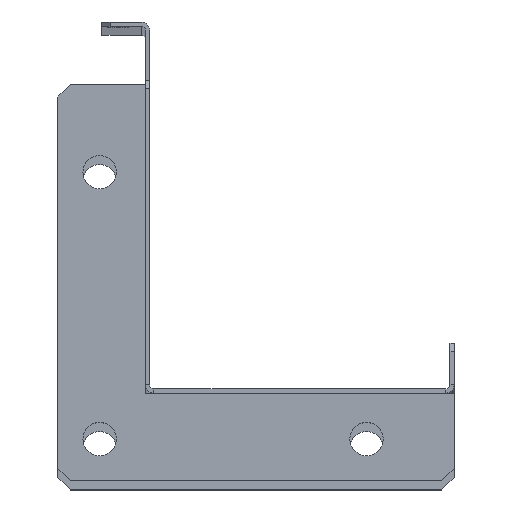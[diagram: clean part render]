
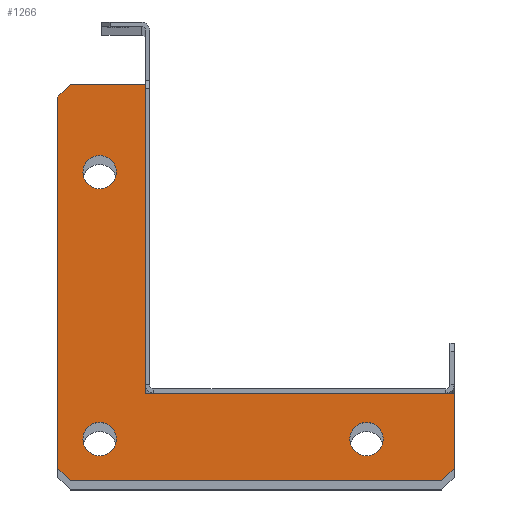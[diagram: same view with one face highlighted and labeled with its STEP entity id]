
A CAD part, top view. The second image highlights one B-rep face of the part: STEP entity #1266.
In plain terms, the highlighted planar face has unit normal (0, 0, 1).
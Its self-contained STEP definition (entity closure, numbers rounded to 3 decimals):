
#38 = ORIENTED_EDGE ( 'NONE', *, *, #2135, .T. ) ;
#55 = DIRECTION ( 'NONE',  ( 0., 0., 1. ) ) ;
#99 = VERTEX_POINT ( 'NONE', #1218 ) ;
#101 = DIRECTION ( 'NONE',  ( 1., 0., 0. ) ) ;
#103 = AXIS2_PLACEMENT_3D ( 'NONE', #710, #1418, #529 ) ;
#117 = VERTEX_POINT ( 'NONE', #647 ) ;
#120 = DIRECTION ( 'NONE',  ( 0., 0., 1. ) ) ;
#124 = CARTESIAN_POINT ( 'NONE',  ( 71., -21., 635. ) ) ;
#129 = EDGE_CURVE ( 'NONE', #629, #203, #1972, .T. ) ;
#164 = ORIENTED_EDGE ( 'NONE', *, *, #567, .F. ) ;
#167 = CARTESIAN_POINT ( 'NONE',  ( -18., -21., 635. ) ) ;
#196 = PLANE ( 'NONE',  #2360 ) ;
#201 = EDGE_CURVE ( 'NONE', #1807, #226, #1035, .T. ) ;
#203 = VERTEX_POINT ( 'NONE', #1421 ) ;
#206 = DIRECTION ( 'NONE',  ( 0., 0., 1. ) ) ;
#217 = ORIENTED_EDGE ( 'NONE', *, *, #924, .T. ) ;
#220 = DIRECTION ( 'NONE',  ( 1., 0., 0. ) ) ;
#226 = VERTEX_POINT ( 'NONE', #928 ) ;
#231 = CARTESIAN_POINT ( 'NONE',  ( 53., -11., 635. ) ) ;
#236 = VECTOR ( 'NONE', #1590, 1000. ) ;
#276 = CARTESIAN_POINT ( 'NONE',  ( -11., -11., 635. ) ) ;
#300 = CARTESIAN_POINT ( 'NONE',  ( 49., -11., 635. ) ) ;
#306 = DIRECTION ( 'NONE',  ( 1., 0., 0. ) ) ;
#339 = CARTESIAN_POINT ( 'NONE',  ( -21., -18., 635. ) ) ;
#340 = AXIS2_PLACEMENT_3D ( 'NONE', #1775, #120, #306 ) ;
#361 = VERTEX_POINT ( 'NONE', #938 ) ;
#379 = VECTOR ( 'NONE', #2202, 1000. ) ;
#383 = EDGE_CURVE ( 'NONE', #1163, #361, #1704, .T. ) ;
#410 = DIRECTION ( 'NONE',  ( 0., 0., 1. ) ) ;
#414 = CARTESIAN_POINT ( 'NONE',  ( -11., -11., 635. ) ) ;
#419 = DIRECTION ( 'NONE',  ( -1., 0., 0. ) ) ;
#421 = EDGE_LOOP ( 'NONE', ( #164, #1759 ) ) ;
#427 = CARTESIAN_POINT ( 'NONE',  ( 71., -21., 635. ) ) ;
#432 = ORIENTED_EDGE ( 'NONE', *, *, #1734, .F. ) ;
#455 = CARTESIAN_POINT ( 'NONE',  ( -21., -18., 635. ) ) ;
#457 = CIRCLE ( 'NONE', #340, 4. ) ;
#505 = ORIENTED_EDGE ( 'NONE', *, *, #383, .T. ) ;
#529 = DIRECTION ( 'NONE',  ( 1., 0., 0. ) ) ;
#546 = ORIENTED_EDGE ( 'NONE', *, *, #1495, .T. ) ;
#558 = ORIENTED_EDGE ( 'NONE', *, *, #888, .T. ) ;
#562 = AXIS2_PLACEMENT_3D ( 'NONE', #779, #206, #1518 ) ;
#564 = CARTESIAN_POINT ( 'NONE',  ( 74., 0., 635. ) ) ;
#567 = EDGE_CURVE ( 'NONE', #966, #1194, #831, .T. ) ;
#571 = DIRECTION ( 'NONE',  ( 0., 0., 1. ) ) ;
#593 = DIRECTION ( 'NONE',  ( 0., 0., 1. ) ) ;
#599 = CIRCLE ( 'NONE', #562, 4. ) ;
#603 = FACE_OUTER_BOUND ( 'NONE', #2329, .T. ) ;
#629 = VERTEX_POINT ( 'NONE', #427 ) ;
#647 = CARTESIAN_POINT ( 'NONE',  ( 57., -11., 635. ) ) ;
#658 = LINE ( 'NONE', #455, #732 ) ;
#685 = VERTEX_POINT ( 'NONE', #2281 ) ;
#710 = CARTESIAN_POINT ( 'NONE',  ( -11., 53., 635. ) ) ;
#726 = DIRECTION ( 'NONE',  ( 1., 0., 0. ) ) ;
#731 = CARTESIAN_POINT ( 'NONE',  ( -18., 74., 635. ) ) ;
#732 = VECTOR ( 'NONE', #1390, 1000. ) ;
#779 = CARTESIAN_POINT ( 'NONE',  ( -11., 53., 635. ) ) ;
#805 = ORIENTED_EDGE ( 'NONE', *, *, #2217, .F. ) ;
#814 = EDGE_CURVE ( 'NONE', #226, #1163, #2303, .T. ) ;
#829 = CIRCLE ( 'NONE', #103, 4. ) ;
#831 = CIRCLE ( 'NONE', #1762, 4. ) ;
#845 = CIRCLE ( 'NONE', #1699, 4. ) ;
#888 = EDGE_CURVE ( 'NONE', #910, #961, #1573, .T. ) ;
#910 = VERTEX_POINT ( 'NONE', #2212 ) ;
#912 = LINE ( 'NONE', #167, #2014 ) ;
#914 = CARTESIAN_POINT ( 'NONE',  ( -7., -11., 635. ) ) ;
#924 = EDGE_CURVE ( 'NONE', #685, #629, #912, .T. ) ;
#928 = CARTESIAN_POINT ( 'NONE',  ( 0., 0., 635. ) ) ;
#930 = FACE_BOUND ( 'NONE', #421, .T. ) ;
#938 = CARTESIAN_POINT ( 'NONE',  ( -18., 74., 635. ) ) ;
#961 = VERTEX_POINT ( 'NONE', #339 ) ;
#966 = VERTEX_POINT ( 'NONE', #914 ) ;
#1005 = CARTESIAN_POINT ( 'NONE',  ( 74., -18., 635. ) ) ;
#1035 = LINE ( 'NONE', #1581, #2084 ) ;
#1145 = CARTESIAN_POINT ( 'NONE',  ( 0., 74., 635. ) ) ;
#1163 = VERTEX_POINT ( 'NONE', #1986 ) ;
#1166 = EDGE_LOOP ( 'NONE', ( #1726, #432 ) ) ;
#1194 = VERTEX_POINT ( 'NONE', #1659 ) ;
#1209 = ORIENTED_EDGE ( 'NONE', *, *, #1312, .F. ) ;
#1218 = CARTESIAN_POINT ( 'NONE',  ( -7., 53., 635. ) ) ;
#1227 = VECTOR ( 'NONE', #1768, 1000. ) ;
#1240 = ORIENTED_EDGE ( 'NONE', *, *, #201, .T. ) ;
#1266 = ADVANCED_FACE ( 'NONE', ( #1301, #930, #2252, #603 ), #196, .T. ) ;
#1301 = FACE_BOUND ( 'NONE', #1166, .T. ) ;
#1312 = EDGE_CURVE ( 'NONE', #1988, #117, #845, .T. ) ;
#1390 = DIRECTION ( 'NONE',  ( 0.707, -0.707, 0. ) ) ;
#1418 = DIRECTION ( 'NONE',  ( 0., 0., 1. ) ) ;
#1421 = CARTESIAN_POINT ( 'NONE',  ( 74., -18., 635. ) ) ;
#1433 = ORIENTED_EDGE ( 'NONE', *, *, #129, .T. ) ;
#1495 = EDGE_CURVE ( 'NONE', #961, #685, #658, .T. ) ;
#1506 = VECTOR ( 'NONE', #2370, 1000. ) ;
#1518 = DIRECTION ( 'NONE',  ( 1., 0., 0. ) ) ;
#1557 = VECTOR ( 'NONE', #419, 1000. ) ;
#1573 = LINE ( 'NONE', #2312, #1506 ) ;
#1576 = LINE ( 'NONE', #1005, #236 ) ;
#1581 = CARTESIAN_POINT ( 'NONE',  ( 0., 0., 635. ) ) ;
#1590 = DIRECTION ( 'NONE',  ( 0., 1., 0. ) ) ;
#1599 = EDGE_CURVE ( 'NONE', #99, #2285, #829, .T. ) ;
#1637 = EDGE_LOOP ( 'NONE', ( #805, #1209 ) ) ;
#1642 = LINE ( 'NONE', #731, #379 ) ;
#1659 = CARTESIAN_POINT ( 'NONE',  ( -15., -11., 635. ) ) ;
#1664 = AXIS2_PLACEMENT_3D ( 'NONE', #414, #593, #2097 ) ;
#1699 = AXIS2_PLACEMENT_3D ( 'NONE', #231, #410, #220 ) ;
#1700 = CIRCLE ( 'NONE', #1664, 4. ) ;
#1704 = LINE ( 'NONE', #1145, #1557 ) ;
#1726 = ORIENTED_EDGE ( 'NONE', *, *, #1599, .F. ) ;
#1734 = EDGE_CURVE ( 'NONE', #2285, #99, #599, .T. ) ;
#1759 = ORIENTED_EDGE ( 'NONE', *, *, #2074, .F. ) ;
#1762 = AXIS2_PLACEMENT_3D ( 'NONE', #276, #571, #101 ) ;
#1768 = DIRECTION ( 'NONE',  ( 0.707, 0.707, 0. ) ) ;
#1775 = CARTESIAN_POINT ( 'NONE',  ( 53., -11., 635. ) ) ;
#1782 = ORIENTED_EDGE ( 'NONE', *, *, #814, .T. ) ;
#1786 = CARTESIAN_POINT ( 'NONE',  ( 0., 74., 635. ) ) ;
#1797 = DIRECTION ( 'NONE',  ( 0., 1., 0. ) ) ;
#1807 = VERTEX_POINT ( 'NONE', #564 ) ;
#1972 = LINE ( 'NONE', #124, #1227 ) ;
#1986 = CARTESIAN_POINT ( 'NONE',  ( 0., 74., 635. ) ) ;
#1988 = VERTEX_POINT ( 'NONE', #300 ) ;
#1993 = CARTESIAN_POINT ( 'NONE',  ( -15., 53., 635. ) ) ;
#2014 = VECTOR ( 'NONE', #726, 1000. ) ;
#2046 = DIRECTION ( 'NONE',  ( 1., 0., 0. ) ) ;
#2058 = CARTESIAN_POINT ( 'NONE',  ( 0., 0., 635. ) ) ;
#2074 = EDGE_CURVE ( 'NONE', #1194, #966, #1700, .T. ) ;
#2084 = VECTOR ( 'NONE', #2347, 1000. ) ;
#2097 = DIRECTION ( 'NONE',  ( 1., 0., 0. ) ) ;
#2135 = EDGE_CURVE ( 'NONE', #203, #1807, #1576, .T. ) ;
#2202 = DIRECTION ( 'NONE',  ( -0.707, -0.707, 0. ) ) ;
#2212 = CARTESIAN_POINT ( 'NONE',  ( -21., 71., 635. ) ) ;
#2217 = EDGE_CURVE ( 'NONE', #117, #1988, #457, .T. ) ;
#2246 = VECTOR ( 'NONE', #1797, 1000. ) ;
#2249 = ORIENTED_EDGE ( 'NONE', *, *, #2271, .T. ) ;
#2252 = FACE_BOUND ( 'NONE', #1637, .T. ) ;
#2271 = EDGE_CURVE ( 'NONE', #361, #910, #1642, .T. ) ;
#2281 = CARTESIAN_POINT ( 'NONE',  ( -18., -21., 635. ) ) ;
#2285 = VERTEX_POINT ( 'NONE', #1993 ) ;
#2303 = LINE ( 'NONE', #1786, #2246 ) ;
#2312 = CARTESIAN_POINT ( 'NONE',  ( -21., 71., 635. ) ) ;
#2329 = EDGE_LOOP ( 'NONE', ( #1782, #505, #2249, #558, #546, #217, #1433, #38, #1240 ) ) ;
#2347 = DIRECTION ( 'NONE',  ( -1., 0., 0. ) ) ;
#2360 = AXIS2_PLACEMENT_3D ( 'NONE', #2058, #55, #2046 ) ;
#2370 = DIRECTION ( 'NONE',  ( 0., -1., 0. ) ) ;
